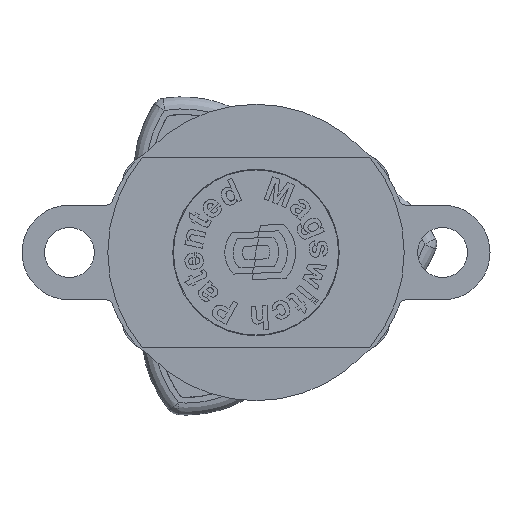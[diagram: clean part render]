
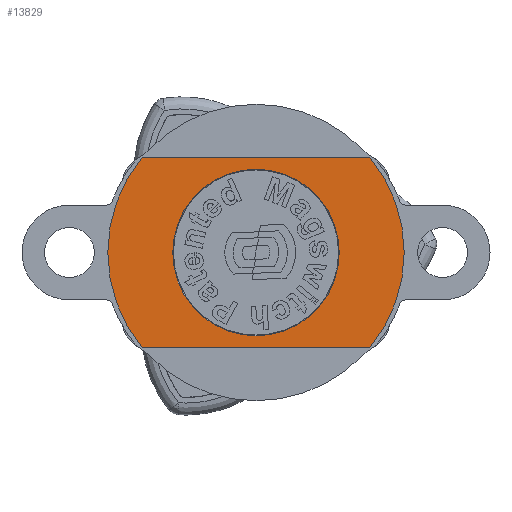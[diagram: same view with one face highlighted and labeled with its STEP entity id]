
A CAD part, front view. The second image highlights one B-rep face of the part: STEP entity #13829.
In plain terms, the highlighted planar face has unit normal (0, -1, 0).
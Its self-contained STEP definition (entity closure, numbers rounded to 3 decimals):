
#163 = CARTESIAN_POINT ( 'NONE',  ( 14.251, 9.055, 26.599 ) ) ;
#322 = DIRECTION ( 'NONE',  ( 0., 1., 0. ) ) ;
#1394 = DIRECTION ( 'NONE',  ( -1., 0., 0. ) ) ;
#1410 = ORIENTED_EDGE ( 'NONE', *, *, #28840, .F. ) ;
#3224 = CARTESIAN_POINT ( 'NONE',  ( 4.646, 9.055, 25.622 ) ) ;
#3391 = DIRECTION ( 'NONE',  ( 0., 1., 0. ) ) ;
#4150 = CIRCLE ( 'NONE', #31662, 7.023 ) ;
#4455 = CARTESIAN_POINT ( 'NONE',  ( -4.959, 9.055, 10.599 ) ) ;
#4685 = VERTEX_POINT ( 'NONE', #163 ) ;
#7532 = ORIENTED_EDGE ( 'NONE', *, *, #14093, .T. ) ;
#7892 = CIRCLE ( 'NONE', #34272, 12.5 ) ;
#7970 = FACE_OUTER_BOUND ( 'NONE', #18113, .T. ) ;
#8422 = VERTEX_POINT ( 'NONE', #24090 ) ;
#8455 = AXIS2_PLACEMENT_3D ( 'NONE', #27629, #9602, #30674 ) ;
#8555 = EDGE_CURVE ( 'NONE', #4685, #15953, #7892, .T. ) ;
#9602 = DIRECTION ( 'NONE',  ( 0., 1., 0. ) ) ;
#11106 = CARTESIAN_POINT ( 'NONE',  ( -4.959, 9.055, 10.599 ) ) ;
#11486 = EDGE_CURVE ( 'NONE', #22149, #4685, #36856, .T. ) ;
#12051 = CARTESIAN_POINT ( 'NONE',  ( -4.959, 9.055, 26.599 ) ) ;
#12288 = VERTEX_POINT ( 'NONE', #3224 ) ;
#12560 = VERTEX_POINT ( 'NONE', #11106 ) ;
#13202 = CARTESIAN_POINT ( 'NONE',  ( 4.646, 9.055, 18.599 ) ) ;
#13829 = ADVANCED_FACE ( 'NONE', ( #31063, #7970 ), #21897, .F. ) ;
#14093 = EDGE_CURVE ( 'NONE', #12288, #8422, #4150, .T. ) ;
#14222 = AXIS2_PLACEMENT_3D ( 'NONE', #13202, #34297, #16227 ) ;
#14792 = CARTESIAN_POINT ( 'NONE',  ( 4.646, 9.055, 18.599 ) ) ;
#14831 = ORIENTED_EDGE ( 'NONE', *, *, #31474, .F. ) ;
#15953 = VERTEX_POINT ( 'NONE', #30603 ) ;
#16035 = EDGE_LOOP ( 'NONE', ( #16661, #7532 ) ) ;
#16227 = DIRECTION ( 'NONE',  ( 0., 0., 1. ) ) ;
#16661 = ORIENTED_EDGE ( 'NONE', *, *, #21341, .T. ) ;
#17826 = DIRECTION ( 'NONE',  ( 0., 0., 1. ) ) ;
#18113 = EDGE_LOOP ( 'NONE', ( #14831, #21642, #29552, #1410 ) ) ;
#18309 = LINE ( 'NONE', #4455, #25368 ) ;
#18426 = CARTESIAN_POINT ( 'NONE',  ( 4.646, 9.055, 18.599 ) ) ;
#21341 = EDGE_CURVE ( 'NONE', #8422, #12288, #23291, .T. ) ;
#21454 = CARTESIAN_POINT ( 'NONE',  ( 4.646, 9.055, 18.599 ) ) ;
#21458 = DIRECTION ( 'NONE',  ( 0., 0., 1. ) ) ;
#21642 = ORIENTED_EDGE ( 'NONE', *, *, #8555, .F. ) ;
#21897 = PLANE ( 'NONE',  #14222 ) ;
#22149 = VERTEX_POINT ( 'NONE', #37915 ) ;
#23291 = CIRCLE ( 'NONE', #24025, 7.023 ) ;
#24025 = AXIS2_PLACEMENT_3D ( 'NONE', #14792, #35909, #17826 ) ;
#24090 = CARTESIAN_POINT ( 'NONE',  ( 4.646, 9.055, 11.576 ) ) ;
#24474 = DIRECTION ( 'NONE',  ( 0., 0., 1. ) ) ;
#25368 = VECTOR ( 'NONE', #1394, 1000. ) ;
#27629 = CARTESIAN_POINT ( 'NONE',  ( 4.646, 9.055, 18.599 ) ) ;
#28840 = EDGE_CURVE ( 'NONE', #12560, #22149, #37360, .T. ) ;
#29552 = ORIENTED_EDGE ( 'NONE', *, *, #11486, .F. ) ;
#30603 = CARTESIAN_POINT ( 'NONE',  ( 14.251, 9.055, 10.599 ) ) ;
#30674 = DIRECTION ( 'NONE',  ( 0., 0., 1. ) ) ;
#31063 = FACE_BOUND ( 'NONE', #16035, .T. ) ;
#31474 = EDGE_CURVE ( 'NONE', #15953, #12560, #18309, .T. ) ;
#31662 = AXIS2_PLACEMENT_3D ( 'NONE', #18426, #322, #21458 ) ;
#32601 = VECTOR ( 'NONE', #36450, 1000. ) ;
#34272 = AXIS2_PLACEMENT_3D ( 'NONE', #21454, #3391, #24474 ) ;
#34297 = DIRECTION ( 'NONE',  ( 0., 1., 0. ) ) ;
#35909 = DIRECTION ( 'NONE',  ( 0., 1., 0. ) ) ;
#36450 = DIRECTION ( 'NONE',  ( 1., 0., 0. ) ) ;
#36856 = LINE ( 'NONE', #12051, #32601 ) ;
#37360 = CIRCLE ( 'NONE', #8455, 12.5 ) ;
#37915 = CARTESIAN_POINT ( 'NONE',  ( -4.959, 9.055, 26.599 ) ) ;
